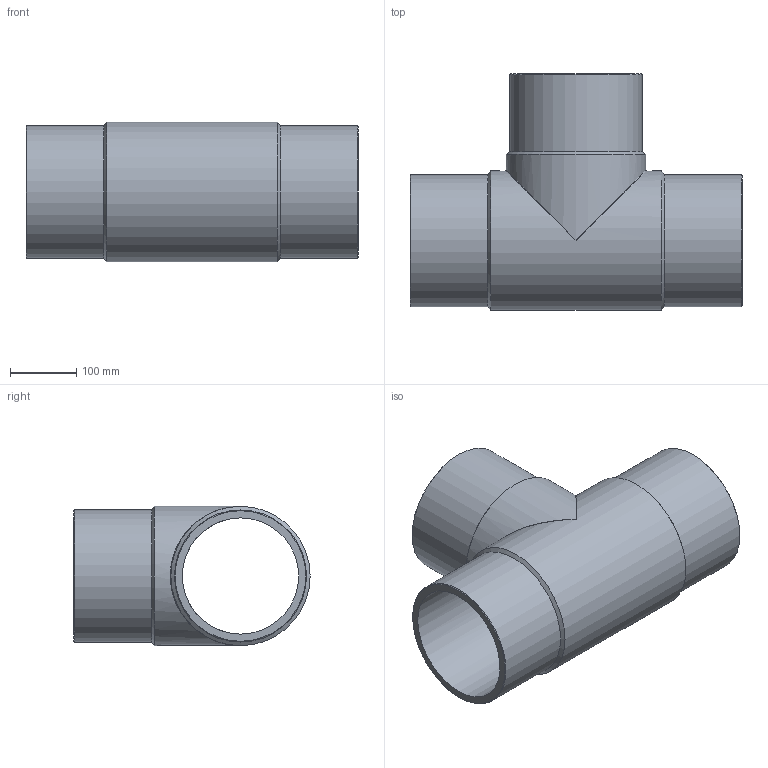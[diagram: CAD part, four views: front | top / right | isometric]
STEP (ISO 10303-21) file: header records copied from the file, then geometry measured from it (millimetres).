
FILE_DESCRIPTION(/* description */ ('Unknown'),/* implementation_level */ '2;1');
FILE_NAME(/* name */ 'TP200B',/* time_stamp */ '2021-08-05T17:48:33+02:00',/* author */ ('Unknown'),/* organization */ ('Unknown'),/* preprocessor_version */ 'ST-DEVELOPER v16.7',/* originating_system */ 'Solid Edge',/* authorisation */ 'Unknown');
FILE_SCHEMA (('AUTOMOTIVE_DESIGN {1 0 10303 214 3 1 1}'));
Length unit declared in the file: millimetre
Products named in the file (1): TP200B
Bounding box: 503 x 358 x 211 mm (x, y, z)
Volume: 5408192.4 mm3; surface area: 780733.5 mm2
Topology: 1 solids, 1 shells, 18 faces, 44 edges, 23 vertices
Faces by surface type: cylinder 7, cone 6, plane 3, bspline 2
Full cylindrical faces by diameter (mm): 176.2 x2, 200 x3, 211 x2
Entity records: 516 total; most frequent: CARTESIAN_POINT 159, DIRECTION 76, ORIENTED_EDGE 42, AXIS2_PLACEMENT_3D 38, EDGE_LOOP 36, FACE_BOUND 36, EDGE_CURVE 21, VERTEX_POINT 19
